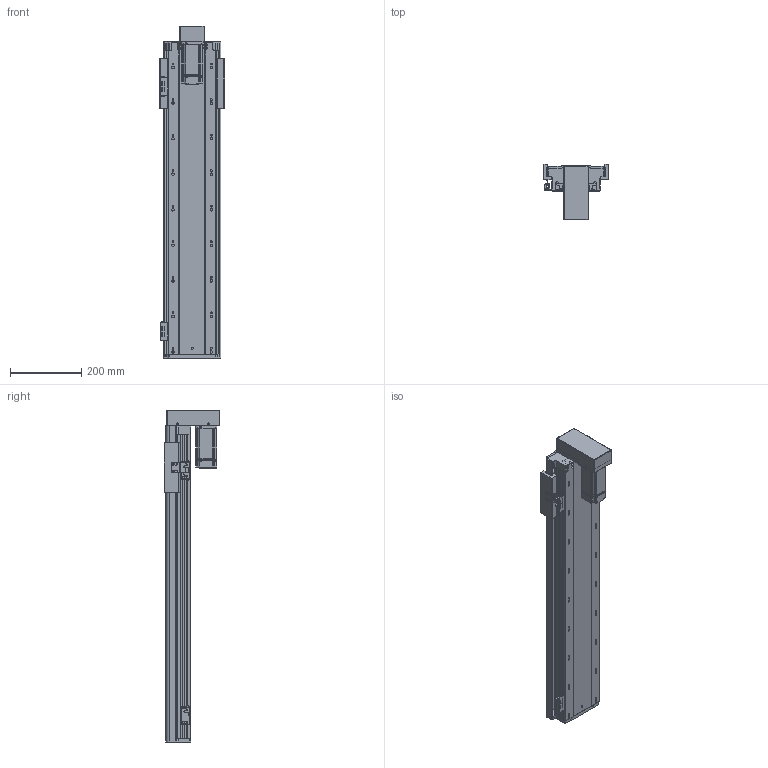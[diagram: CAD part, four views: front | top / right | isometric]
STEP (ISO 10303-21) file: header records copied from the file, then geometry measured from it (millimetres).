
FILE_DESCRIPTION (( 'STEP AP203' ), '1' );
FILE_NAME ('RY140FB-L2010-300-BK.SLDASM_650.step', '2021-02-23T02:28:54', ( '盈信电脑' ), ( '东莞市道滘镇水果街19号' ), 'SwSTEP 2.0', 'SolidWorks 2012', '' );
FILE_SCHEMA (( 'CONFIG_CONTROL_DESIGN' ));
Length unit declared in the file: millimetre
Products named in the file (17): RY140FB-覜茼え; RY140-674嫖萇耀輸; RY140FB-L2010-300-BK.SLDASM_650; RY140直线电机感应器674光电安装座; 覜茼ん674; RY140FB-300蛌殏奻裔啣-BK_650; RY140FB-20佪裝臏賑輸; 侂狟400W侜督萇儂; RY140FB-狟殏萇儂假蚾啣; RY140狟殏萇儂欶; 滅袉蝶18-10; RY140FB-转折电机端支撑座(7002); 滅袉蝶18-24; 15; RY140FB-300蛌殏倰第菁釱-BK_650; RY140FB-綴裔啣
Assembly tree (20 placements, depth 3):
  RY140FB-L2010-300-BK.SLDASM_650
    RY140FB-300蛌殏倰第菁釱-BK_650
    RY140FB-綴裔啣
    滅袉蝶18-24  x2
    滅袉蝶18-10
    RY140FB-转折电机端支撑座(7002)
    侂狟400W侜督萇儂
      15
    RY140狟殏萇儂欶
    RY140FB-狟殏萇儂假蚾啣
    RY140FB-20佪裝臏賑輸
    RY140FB-300蛌殏奻裔啣-BK_650
    RY140-674嫖萇耀輸
      覜茼ん674  x2
      RY140直线电机感应器674光电安装座
    RY140-674嫖萇耀輸
      RY140直线电机感应器674光电安装座
      覜茼ん674
    RY140FB-覜茼え
Bounding box: 183 x 156 x 934 mm (x, y, z)
Volume: 3755395.5 mm3; surface area: 1226220.5 mm2
Topology: 17 solids, 17 shells, 1790 faces, 4929 edges, 3137 vertices
Faces by surface type: cylinder 873, plane 723, cone 166, bspline 28
Entity records: 54295 total; most frequent: CARTESIAN_POINT 11067, DIRECTION 8754, ORIENTED_EDGE 8574, EDGE_CURVE 4287, AXIS2_PLACEMENT_3D 3160, VERTEX_POINT 2805, VECTOR 2434, LINE 2434
